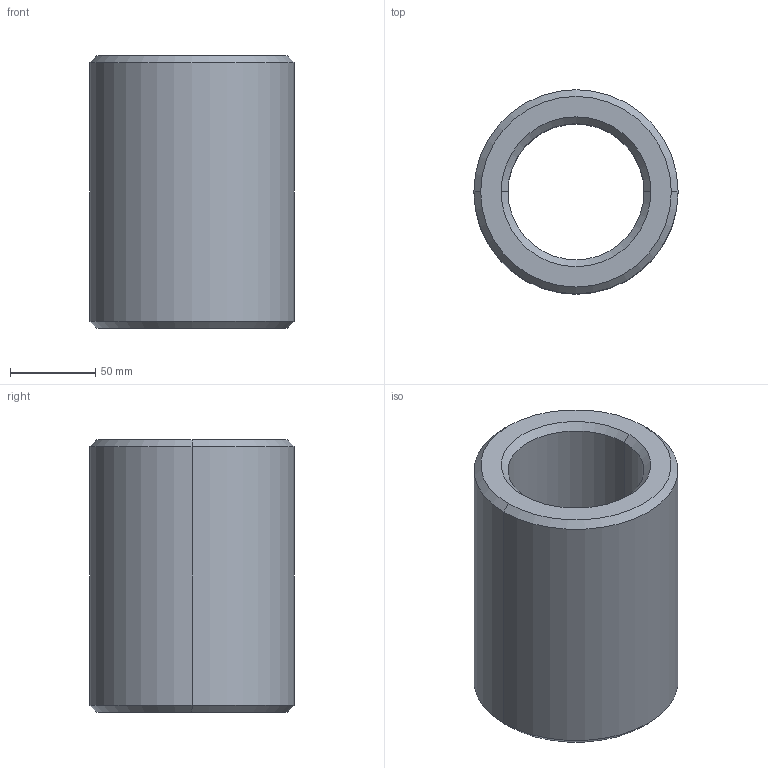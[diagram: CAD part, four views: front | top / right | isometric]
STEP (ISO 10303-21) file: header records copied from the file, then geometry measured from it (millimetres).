
FILE_DESCRIPTION (( 'STEP AP203' ), '1' );
FILE_NAME ('L1330.L80-10.step', '2024-10-24T09:24:38', ( '' ), ( '' ), 'SwSTEP 2.0', 'SolidWorks 2019', '' );
FILE_SCHEMA (( 'CONFIG_CONTROL_DESIGN' ));
Length unit declared in the file: millimetre
Products named in the file (1): L1330.L80-10
Bounding box: 120 x 120 x 160 mm (x, y, z)
Volume: 995256.6 mm3; surface area: 110152.9 mm2
Topology: 1 solids, 1 shells, 14 faces, 28 edges, 16 vertices
Faces by surface type: cone 8, cylinder 4, plane 2
Entity records: 445 total; most frequent: DIRECTION 74, CARTESIAN_POINT 59, ORIENTED_EDGE 56, AXIS2_PLACEMENT_3D 31, EDGE_CURVE 28, VERTEX_POINT 16, EDGE_LOOP 16, CIRCLE 16
